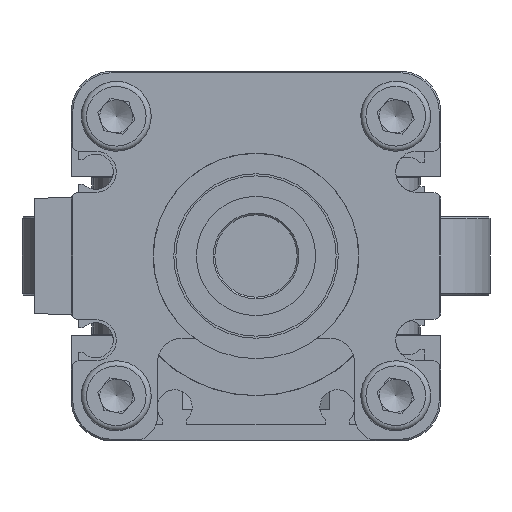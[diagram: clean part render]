
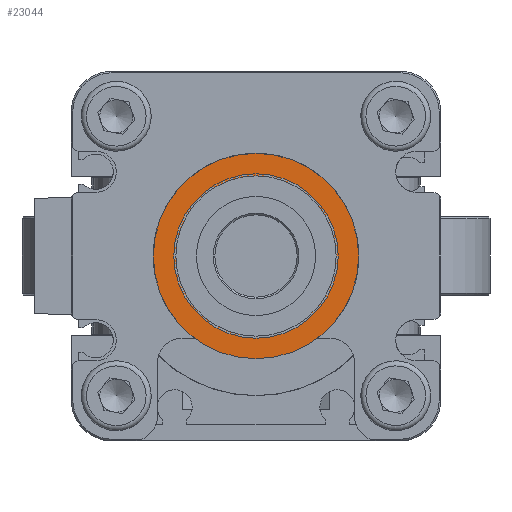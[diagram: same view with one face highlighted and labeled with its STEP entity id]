
A CAD part, front view. The second image highlights one B-rep face of the part: STEP entity #23044.
In plain terms, the highlighted planar face has unit normal (0, -1, 0).
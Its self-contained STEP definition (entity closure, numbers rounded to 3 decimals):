
#23044=ADVANCED_FACE('',(#26681,#26682),#24984,.T.);
#24984=PLANE('',#43251);
#26681=FACE_BOUND('',#27421,.T.);
#26682=FACE_BOUND('',#27422,.T.);
#27421=EDGE_LOOP('',(#30884));
#27422=EDGE_LOOP('',(#30885));
#30884=ORIENTED_EDGE('',*,*,#39272,.T.);
#30885=ORIENTED_EDGE('',*,*,#39273,.F.);
#37142=VERTEX_POINT('',#55525);
#37143=VERTEX_POINT('',#55527);
#39272=EDGE_CURVE('',#37142,#37142,#42399,.T.);
#39273=EDGE_CURVE('',#37143,#37143,#42400,.T.);
#42399=CIRCLE('',#43249,12.5);
#42400=CIRCLE('',#43250,9.75);
#43249=AXIS2_PLACEMENT_3D('',#55524,#46934,#46935);
#43250=AXIS2_PLACEMENT_3D('',#55526,#46936,#46937);
#43251=AXIS2_PLACEMENT_3D('',#55528,#46938,#46939);
#46934=DIRECTION('',(0.,-1.,0.));
#46935=DIRECTION('',(1.,0.,0.));
#46936=DIRECTION('',(0.,-1.,0.));
#46937=DIRECTION('',(1.,0.,0.));
#46938=DIRECTION('',(0.,-1.,0.));
#46939=DIRECTION('',(0.,0.,-1.));
#55524=CARTESIAN_POINT('',(-200.,105.,-22.5));
#55525=CARTESIAN_POINT('',(-187.5,105.,-22.5));
#55526=CARTESIAN_POINT('',(-200.,105.,-22.5));
#55527=CARTESIAN_POINT('',(-190.25,105.,-22.5));
#55528=CARTESIAN_POINT('',(-200.,105.,-22.5));
